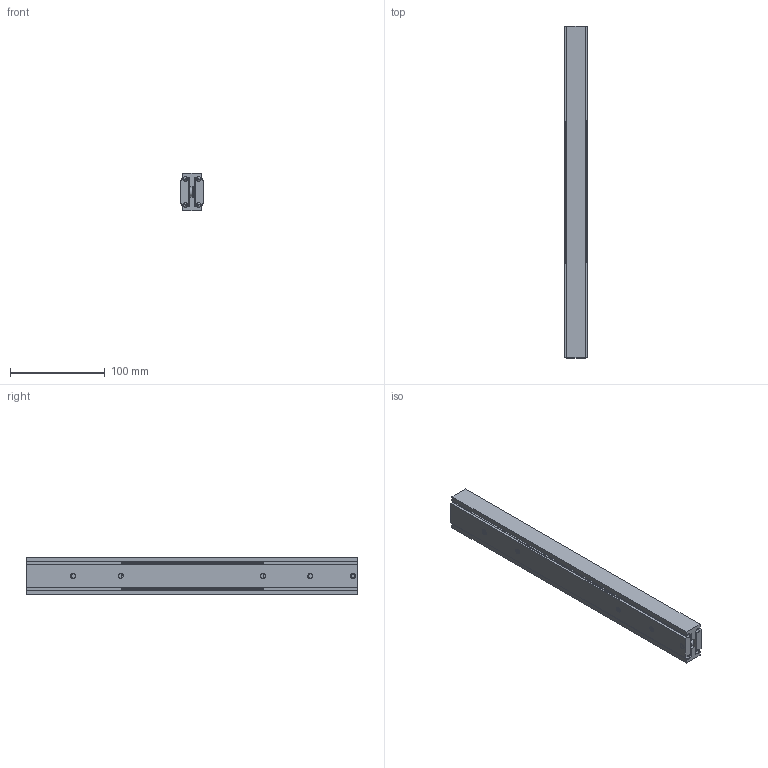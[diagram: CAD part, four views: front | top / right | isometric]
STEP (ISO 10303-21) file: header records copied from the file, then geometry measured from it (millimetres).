
FILE_DESCRIPTION(/* description */ (''),/* implementation_level */ '2;1');
FILE_NAME(/* name */ 'D:\Zeichnungen Schienen Komplett\MX-DTP40\MX-DTP40.035\MX-DTP40.035_eingefahren.step',/* time_stamp */ '2022-07-14T16:41:10+02:00',/* author */ ('zmile'),/* organization */ (''),/* preprocessor_version */ 'ST-DEVELOPER v16.13',/* originating_system */ 'AutoCAD Mechanical',/* authorisation */ '');
FILE_SCHEMA (('AUTOMOTIVE_DESIGN { 1 0 10303 214 3 1 1 }'));
Products named in the file (1): Product
Bounding box: 24 x 350 x 40 mm (x, y, z)
Volume: 263492.3 mm3; surface area: 132520.1 mm2
Topology: 31 solids, 31 shells, 200 faces, 534 edges, 352 vertices
Faces by surface type: plane 84, cylinder 48, bspline 38, sphere 24, torus 6
Full cylindrical faces by diameter (mm): 6 x24, 10 x2
Entity records: 70977 total; most frequent: CARTESIAN_POINT 66391, ORIENTED_EDGE 904, DIRECTION 796, EDGE_CURVE 452, VERTEX_POINT 350, EDGE_LOOP 304, AXIS2_PLACEMENT_3D 293, LINE 210
